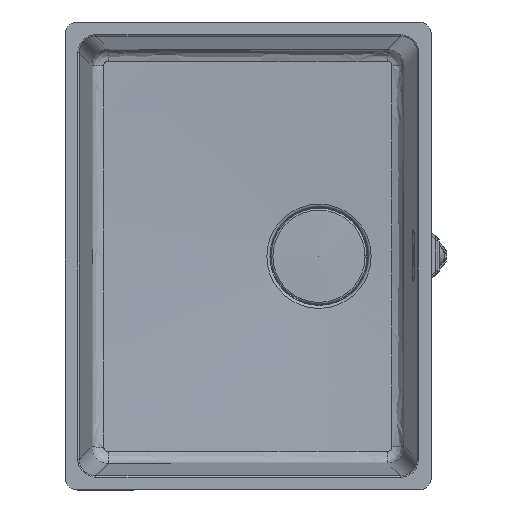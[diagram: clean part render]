
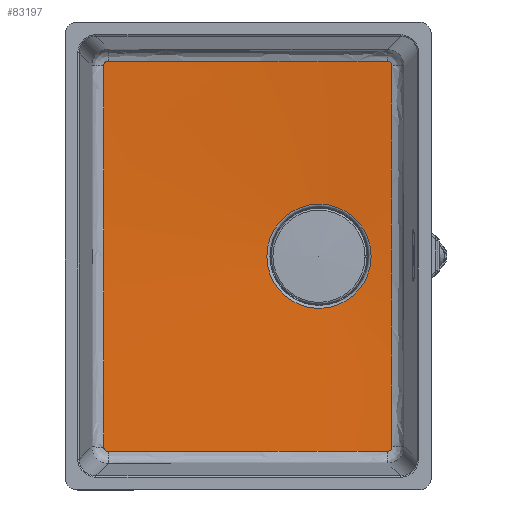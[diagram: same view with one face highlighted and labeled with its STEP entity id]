
A CAD part, top view. The second image highlights one B-rep face of the part: STEP entity #83197.
In plain terms, the highlighted conical face has half-angle 87 degrees and reference radius 281.05 mm.
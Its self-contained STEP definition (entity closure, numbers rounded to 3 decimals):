
#250=CONICAL_SURFACE('',#88659,281.05,1.518);
#2567=B_SPLINE_CURVE_WITH_KNOTS('',3,(#117840,#117841,#117842,#117843,#117844,
#117845,#117846),.UNSPECIFIED.,.F.,.F.,(4,1,1,1,4),(-0.784,
-0.56,-0.336,-0.112,0.),
 .UNSPECIFIED.);
#2568=B_SPLINE_CURVE_WITH_KNOTS('',3,(#117892,#117893,#117894,#117895,#117896,
#117897,#117898),.UNSPECIFIED.,.F.,.F.,(4,1,1,1,4),(0.,4.711,
11.778,14.133,32.978),.UNSPECIFIED.);
#2569=B_SPLINE_CURVE_WITH_KNOTS('',3,(#117943,#117944,#117945,#117946,#117947,
#117948,#117949),.UNSPECIFIED.,.F.,.F.,(4,1,1,1,4),(-0.784,
-0.56,-0.336,-0.112,0.),
 .UNSPECIFIED.);
#2570=B_SPLINE_CURVE_WITH_KNOTS('',3,(#118019,#118020,#118021,#118022,#118023,
#118024,#118025,#118026),.UNSPECIFIED.,.F.,.F.,(4,1,1,1,1,4),(0.,6.422,
12.845,19.267,22.478,22.478),
 .UNSPECIFIED.);
#2571=B_SPLINE_CURVE_WITH_KNOTS('',3,(#118027,#118028,#118029,#118030,#118031,
#118032,#118033),.UNSPECIFIED.,.F.,.F.,(4,1,1,1,4),(22.478,25.689,
32.112,38.534,44.956),.UNSPECIFIED.);
#2572=B_SPLINE_CURVE_WITH_KNOTS('',3,(#118085,#118086,#118087,#118088,#118089,
#118090,#118091,#118092),.UNSPECIFIED.,.F.,.F.,(4,1,1,1,1,4),(-0.784,
-0.56,-0.336,-0.224,-0.112,
0.),.UNSPECIFIED.);
#2575=B_SPLINE_CURVE_WITH_KNOTS('',3,(#118153,#118154,#118155,#118156,#118157,
#118158,#118159),.UNSPECIFIED.,.F.,.F.,(4,1,1,1,4),(0.,18.844,
21.2,28.267,32.978),.UNSPECIFIED.);
#2576=B_SPLINE_CURVE_WITH_KNOTS('',3,(#118210,#118211,#118212,#118213,#118214,
#118215,#118216,#118217),.UNSPECIFIED.,.F.,.F.,(4,1,1,1,1,4),(-0.784,
-0.56,-0.336,-0.224,-0.112,
0.),.UNSPECIFIED.);
#2578=B_SPLINE_CURVE_WITH_KNOTS('',3,(#118268,#118269,#118270,#118271,#118272,
#118273,#118274),.UNSPECIFIED.,.F.,.F.,(4,1,1,1,4),(0.,19.296,
25.728,32.16,45.024),.UNSPECIFIED.);
#7882=FACE_OUTER_BOUND('',#12726,.T.);
#12726=EDGE_LOOP('',(#57337,#57338,#57339,#57340,#57341,#57342,#57343,#57344,
#57345,#57346,#57347,#57348,#57349));
#17863=LINE('',#118280,#25446);
#25446=VECTOR('',#95428,281.05);
#33035=CIRCLE('',#88660,61.592);
#33036=CIRCLE('',#88661,61.592);
#35568=VERTEX_POINT('',#117837);
#35569=VERTEX_POINT('',#117839);
#35570=VERTEX_POINT('',#117890);
#35571=VERTEX_POINT('',#117941);
#35572=VERTEX_POINT('',#118016);
#35573=VERTEX_POINT('',#118018);
#35575=VERTEX_POINT('',#118083);
#35577=VERTEX_POINT('',#118151);
#35578=VERTEX_POINT('',#118208);
#35579=VERTEX_POINT('',#118276);
#35580=VERTEX_POINT('',#118277);
#44060=EDGE_CURVE('',#35568,#35569,#2567,.T.);
#44063=EDGE_CURVE('',#35570,#35568,#2568,.T.);
#44065=EDGE_CURVE('',#35571,#35570,#2569,.T.);
#44067=EDGE_CURVE('',#35572,#35573,#2570,.T.);
#44068=EDGE_CURVE('',#35573,#35571,#2571,.T.);
#44070=EDGE_CURVE('',#35575,#35572,#2572,.T.);
#44074=EDGE_CURVE('',#35577,#35575,#2575,.T.);
#44076=EDGE_CURVE('',#35578,#35577,#2576,.T.);
#44078=EDGE_CURVE('',#35569,#35578,#2578,.T.);
#44079=EDGE_CURVE('',#35579,#35580,#33035,.T.);
#44080=EDGE_CURVE('',#35580,#35579,#33036,.T.);
#44081=EDGE_CURVE('',#35580,#35573,#17863,.T.);
#57337=ORIENTED_EDGE('',*,*,#44079,.F.);
#57338=ORIENTED_EDGE('',*,*,#44080,.F.);
#57339=ORIENTED_EDGE('',*,*,#44081,.T.);
#57340=ORIENTED_EDGE('',*,*,#44067,.F.);
#57341=ORIENTED_EDGE('',*,*,#44070,.F.);
#57342=ORIENTED_EDGE('',*,*,#44074,.F.);
#57343=ORIENTED_EDGE('',*,*,#44076,.F.);
#57344=ORIENTED_EDGE('',*,*,#44078,.F.);
#57345=ORIENTED_EDGE('',*,*,#44060,.F.);
#57346=ORIENTED_EDGE('',*,*,#44063,.F.);
#57347=ORIENTED_EDGE('',*,*,#44065,.F.);
#57348=ORIENTED_EDGE('',*,*,#44068,.F.);
#57349=ORIENTED_EDGE('',*,*,#44081,.F.);
#83197=ADVANCED_FACE('',(#7882),#250,.F.);
#88659=AXIS2_PLACEMENT_3D('',#118275,#95422,#95423);
#88660=AXIS2_PLACEMENT_3D('',#118278,#95424,#95425);
#88661=AXIS2_PLACEMENT_3D('',#118279,#95426,#95427);
#95422=DIRECTION('center_axis',(0.,0.,1.));
#95423=DIRECTION('ref_axis',(-1.,0.,0.));
#95424=DIRECTION('center_axis',(0.,0.,1.));
#95425=DIRECTION('ref_axis',(1.,0.,0.));
#95426=DIRECTION('center_axis',(0.,0.,1.));
#95427=DIRECTION('ref_axis',(1.,0.,0.));
#95428=DIRECTION('',(0.999,0.,0.052));
#117837=CARTESIAN_POINT('',(-165.639,-230.577,-185.271));
#117839=CARTESIAN_POINT('',(-170.633,-225.586,-185.253));
#117840=CARTESIAN_POINT('Ctrl Pts',(-165.639,-230.577,
-185.271));
#117841=CARTESIAN_POINT('Ctrl Pts',(-166.386,-230.579,
-185.243));
#117842=CARTESIAN_POINT('Ctrl Pts',(-167.882,-230.244,
-185.197));
#117843=CARTESIAN_POINT('Ctrl Pts',(-169.686,-228.812,
-185.177));
#117844=CARTESIAN_POINT('Ctrl Pts',(-170.512,-227.081,
-185.206));
#117845=CARTESIAN_POINT('Ctrl Pts',(-170.634,-225.959,
-185.24));
#117846=CARTESIAN_POINT('Ctrl Pts',(-170.633,-225.586,-185.253));
#117890=CARTESIAN_POINT('',(164.888,-230.348,-190.264));
#117892=CARTESIAN_POINT('Ctrl Pts',(164.888,-230.348,
-190.264));
#117893=CARTESIAN_POINT('Ctrl Pts',(149.141,-230.339,-190.539));
#117894=CARTESIAN_POINT('Ctrl Pts',(109.76,-230.326,
-191.049));
#117895=CARTESIAN_POINT('Ctrl Pts',(62.484,-230.328,
-191.037));
#117896=CARTESIAN_POINT('Ctrl Pts',(-32.043,-230.349,
-189.994));
#117897=CARTESIAN_POINT('Ctrl Pts',(-102.805,-230.438,
-187.694));
#117898=CARTESIAN_POINT('Ctrl Pts',(-165.639,-230.577,
-185.271));
#117941=CARTESIAN_POINT('',(169.874,-225.346,-190.42));
#117943=CARTESIAN_POINT('Ctrl Pts',(169.874,-225.346,
-190.42));
#117944=CARTESIAN_POINT('Ctrl Pts',(169.877,-226.092,
-190.383));
#117945=CARTESIAN_POINT('Ctrl Pts',(169.545,-227.586,
-190.317));
#117946=CARTESIAN_POINT('Ctrl Pts',(168.117,-229.392,
-190.254));
#117947=CARTESIAN_POINT('Ctrl Pts',(166.385,-230.224,
-190.244));
#117948=CARTESIAN_POINT('Ctrl Pts',(165.262,-230.348,
-190.258));
#117949=CARTESIAN_POINT('Ctrl Pts',(164.888,-230.348,
-190.264));
#118016=CARTESIAN_POINT('',(169.874,225.346,-190.42));
#118018=CARTESIAN_POINT('',(169.668,0.,-198.557));
#118019=CARTESIAN_POINT('Ctrl Pts',(169.874,225.346,-190.42));
#118020=CARTESIAN_POINT('Ctrl Pts',(169.806,203.955,-191.468));
#118021=CARTESIAN_POINT('Ctrl Pts',(169.684,161.164,-193.53));
#118022=CARTESIAN_POINT('Ctrl Pts',(169.572,96.925,-196.383));
#118023=CARTESIAN_POINT('Ctrl Pts',(169.628,43.21,-198.217));
#118024=CARTESIAN_POINT('Ctrl Pts',(169.668,10.802,-198.556));
#118025=CARTESIAN_POINT('Ctrl Pts',(169.668,0.,
-198.557));
#118026=CARTESIAN_POINT('Ctrl Pts',(169.668,0.,
-198.557));
#118027=CARTESIAN_POINT('Ctrl Pts',(169.668,0.,
-198.557));
#118028=CARTESIAN_POINT('Ctrl Pts',(169.668,-10.802,
-198.557));
#118029=CARTESIAN_POINT('Ctrl Pts',(169.629,-43.209,
-198.219));
#118030=CARTESIAN_POINT('Ctrl Pts',(169.571,-96.925,
-196.382));
#118031=CARTESIAN_POINT('Ctrl Pts',(169.684,-161.164,-193.531));
#118032=CARTESIAN_POINT('Ctrl Pts',(169.806,-203.955,
-191.468));
#118033=CARTESIAN_POINT('Ctrl Pts',(169.874,-225.346,
-190.42));
#118083=CARTESIAN_POINT('',(164.888,230.348,-190.264));
#118085=CARTESIAN_POINT('Ctrl Pts',(164.888,230.348,-190.264));
#118086=CARTESIAN_POINT('Ctrl Pts',(165.636,230.348,-190.251));
#118087=CARTESIAN_POINT('Ctrl Pts',(167.135,230.009,-190.241));
#118088=CARTESIAN_POINT('Ctrl Pts',(168.634,228.81,-190.273));
#118089=CARTESIAN_POINT('Ctrl Pts',(169.428,227.531,-190.321));
#118090=CARTESIAN_POINT('Ctrl Pts',(169.795,226.465,-190.367));
#118091=CARTESIAN_POINT('Ctrl Pts',(169.876,225.719,-190.402));
#118092=CARTESIAN_POINT('Ctrl Pts',(169.874,225.346,-190.42));
#118151=CARTESIAN_POINT('',(-165.639,230.577,-185.271));
#118153=CARTESIAN_POINT('Ctrl Pts',(-165.639,230.577,-185.271));
#118154=CARTESIAN_POINT('Ctrl Pts',(-102.805,230.438,
-187.694));
#118155=CARTESIAN_POINT('Ctrl Pts',(-32.043,230.349,-189.994));
#118156=CARTESIAN_POINT('Ctrl Pts',(62.484,230.328,-191.037));
#118157=CARTESIAN_POINT('Ctrl Pts',(109.76,230.326,-191.049));
#118158=CARTESIAN_POINT('Ctrl Pts',(149.141,230.339,-190.539));
#118159=CARTESIAN_POINT('Ctrl Pts',(164.888,230.348,-190.264));
#118208=CARTESIAN_POINT('',(-170.633,225.586,-185.253));
#118210=CARTESIAN_POINT('Ctrl Pts',(-170.633,225.586,-185.253));
#118211=CARTESIAN_POINT('Ctrl Pts',(-170.634,226.333,
-185.227));
#118212=CARTESIAN_POINT('Ctrl Pts',(-170.299,227.829,
-185.188));
#118213=CARTESIAN_POINT('Ctrl Pts',(-169.104,229.331,
-185.182));
#118214=CARTESIAN_POINT('Ctrl Pts',(-167.826,230.128,
-185.203));
#118215=CARTESIAN_POINT('Ctrl Pts',(-166.76,230.497,
-185.231));
#118216=CARTESIAN_POINT('Ctrl Pts',(-166.013,230.578,
-185.257));
#118217=CARTESIAN_POINT('Ctrl Pts',(-165.639,230.577,
-185.271));
#118268=CARTESIAN_POINT('Ctrl Pts',(-170.633,-225.586,-185.253));
#118269=CARTESIAN_POINT('Ctrl Pts',(-170.51,-161.222,
-187.497));
#118270=CARTESIAN_POINT('Ctrl Pts',(-170.433,-75.291,
-189.793));
#118271=CARTESIAN_POINT('Ctrl Pts',(-170.437,32.266,
-189.787));
#118272=CARTESIAN_POINT('Ctrl Pts',(-170.469,118.263,
-188.65));
#118273=CARTESIAN_POINT('Ctrl Pts',(-170.551,182.676,
-186.749));
#118274=CARTESIAN_POINT('Ctrl Pts',(-170.633,225.586,-185.253));
#118275=CARTESIAN_POINT('Origin',(83.6,0.,-188.337));
#118276=CARTESIAN_POINT('',(22.008,0.,-199.838));
#118277=CARTESIAN_POINT('',(145.192,0.,-199.838));
#118278=CARTESIAN_POINT('Origin',(83.6,0.,-199.838));
#118279=CARTESIAN_POINT('Origin',(83.6,0.,-199.838));
#118280=CARTESIAN_POINT('',(364.65,0.,-188.337));
